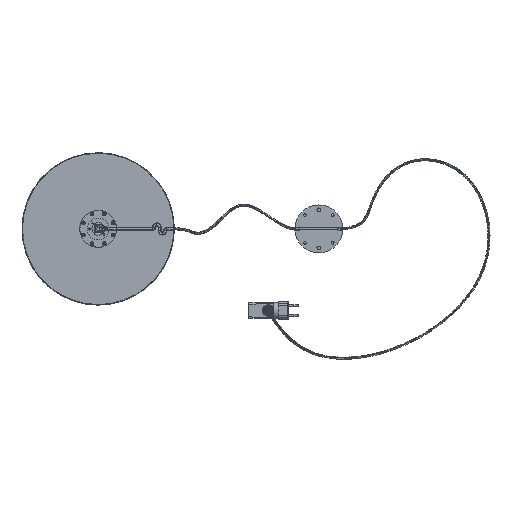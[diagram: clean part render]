
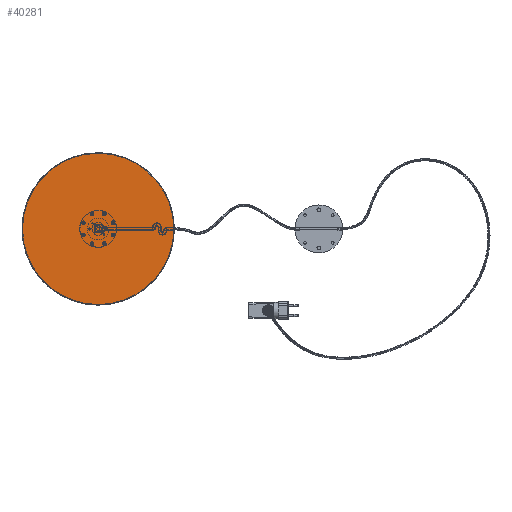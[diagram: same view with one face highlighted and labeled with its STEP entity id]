
A CAD part, front view. The second image highlights one B-rep face of the part: STEP entity #40281.
In plain terms, the highlighted planar face has unit normal (0, -1, 0).
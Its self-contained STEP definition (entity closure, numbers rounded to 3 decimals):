
#6827 = CARTESIAN_POINT ( 'NONE',  ( 0., 0., 0. ) ) ;
#9772 = VERTEX_POINT ( 'NONE', #64374 ) ;
#10835 = CARTESIAN_POINT ( 'NONE',  ( 0., 0., 0. ) ) ;
#12529 = AXIS2_PLACEMENT_3D ( 'NONE', #6827, #48854, #27665 ) ;
#13061 = DIRECTION ( 'NONE',  ( 0., 0., 1. ) ) ;
#15301 = DIRECTION ( 'NONE',  ( 0., 1., 0. ) ) ;
#17470 = CIRCLE ( 'NONE', #59047, 139. ) ;
#23466 = CIRCLE ( 'NONE', #12529, 139. ) ;
#27665 = DIRECTION ( 'NONE',  ( 0., 0., 1. ) ) ;
#30735 = PLANE ( 'NONE',  #58931 ) ;
#33695 = ORIENTED_EDGE ( 'NONE', *, *, #61360, .F. ) ;
#34258 = FACE_OUTER_BOUND ( 'NONE', #58867, .T. ) ;
#35522 = DIRECTION ( 'NONE',  ( 0., 1., 0. ) ) ;
#38490 = VERTEX_POINT ( 'NONE', #46162 ) ;
#40281 = ADVANCED_FACE ( 'NONE', ( #34258 ), #30735, .F. ) ;
#46162 = CARTESIAN_POINT ( 'NONE',  ( 0., 0., -139. ) ) ;
#46989 = ORIENTED_EDGE ( 'NONE', *, *, #51075, .F. ) ;
#48854 = DIRECTION ( 'NONE',  ( 0., 1., 0. ) ) ;
#51075 = EDGE_CURVE ( 'NONE', #38490, #9772, #23466, .T. ) ;
#52932 = DIRECTION ( 'NONE',  ( 0., 0., 1. ) ) ;
#58867 = EDGE_LOOP ( 'NONE', ( #46989, #33695 ) ) ;
#58931 = AXIS2_PLACEMENT_3D ( 'NONE', #67408, #35522, #13061 ) ;
#59047 = AXIS2_PLACEMENT_3D ( 'NONE', #10835, #15301, #52932 ) ;
#61360 = EDGE_CURVE ( 'NONE', #9772, #38490, #17470, .T. ) ;
#64374 = CARTESIAN_POINT ( 'NONE',  ( 0., 0., 139. ) ) ;
#67408 = CARTESIAN_POINT ( 'NONE',  ( 0., 0., 0. ) ) ;
